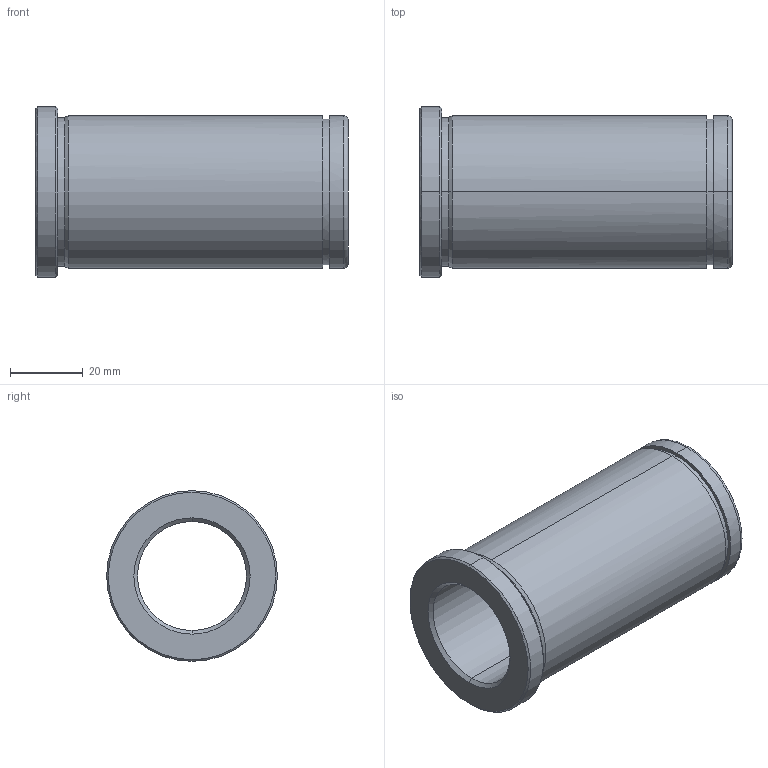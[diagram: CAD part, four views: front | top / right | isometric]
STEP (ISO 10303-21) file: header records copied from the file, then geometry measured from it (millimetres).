
FILE_DESCRIPTION(('CATIA V5 STEP Exchange'),'2;1');
FILE_NAME('C:\Users\Utente\Desktop\IO LAVORO\3D X SITO CF\X SITO\PLASTICA\553\553-30X86.stp','2021-05-26T18:21:53+00:00',('none'),('none'),'CATIA Version 5 Release 20 GA (IN-10)','CATIA V5 STEP AP203','none');
FILE_SCHEMA(('CONFIG_CONTROL_DESIGN'));
Length unit declared in the file: millimetre
Products named in the file (1): 553-30X86
Bounding box: 86 x 47 x 47 mm (x, y, z)
Volume: 59802 mm3; surface area: 21616.2 mm2
Topology: 1 solids, 1 shells, 29 faces, 92 edges, 68 vertices
Faces by surface type: cylinder 12, cone 8, plane 5, torus 4
Entity records: 1228 total; most frequent: CARTESIAN_POINT 378, ORIENTED_EDGE 184, DIRECTION 134, EDGE_CURVE 92, AXIS2_PLACEMENT_3D 86, VERTEX_POINT 68, CIRCLE 56, EDGE_LOOP 34
